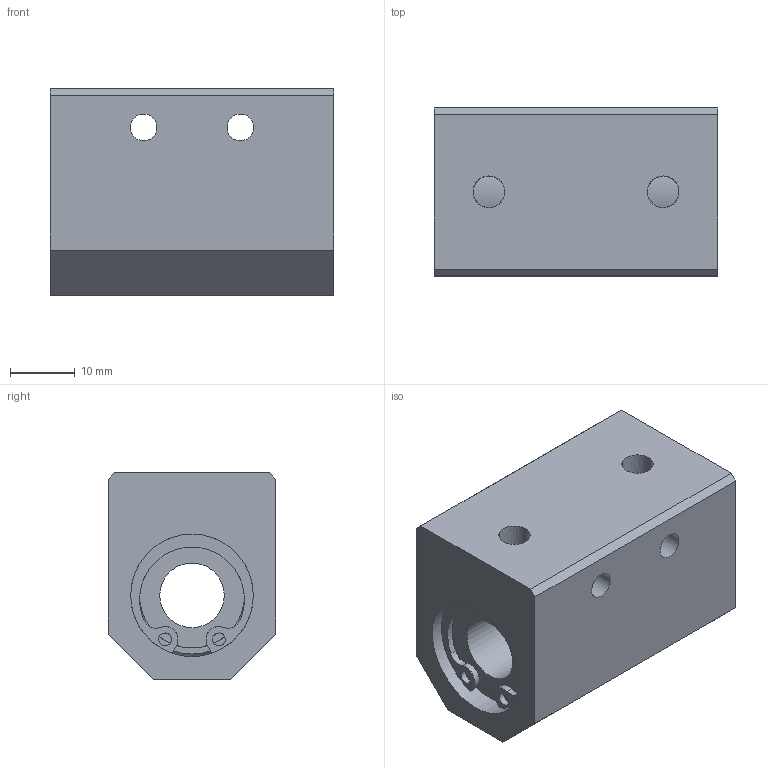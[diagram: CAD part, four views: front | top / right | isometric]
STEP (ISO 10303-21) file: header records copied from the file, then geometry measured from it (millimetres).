
FILE_DESCRIPTION((''),'2;1');
FILE_NAME('D:\製品 (図面)\カタログ用3D\メンテナンスフリー関連\STEP形式\CH-MF\CH10MF.stp','2010-06-01T15:27:56',('Tsuchiya'),(''),'Autodesk Inventor 10','Autodesk Inventor 10','');
FILE_SCHEMA(('AUTOMOTIVE_DESIGN { 1 0 10303 214 1 1 1 1 }'));
Length unit declared in the file: millimetre
Products named in the file (1): CH10MF
Bounding box: 44 x 26 x 32 mm (x, y, z)
Volume: 28232.3 mm3; surface area: 9510.9 mm2
Topology: 1 solids, 3 shells, 75 faces, 191 edges, 120 vertices
Faces by surface type: plane 33, bspline 22, cylinder 18, torus 2
Full cylindrical faces by diameter (mm): 2 x2, 10 x1, 16.3 x2, 18 x2, 19 x4
Entity records: 2382 total; most frequent: CARTESIAN_POINT 706, DIRECTION 356, ORIENTED_EDGE 304, AXIS2_PLACEMENT_3D 152, EDGE_CURVE 152, EDGE_LOOP 118, VERTEX_POINT 104, CIRCLE 98
